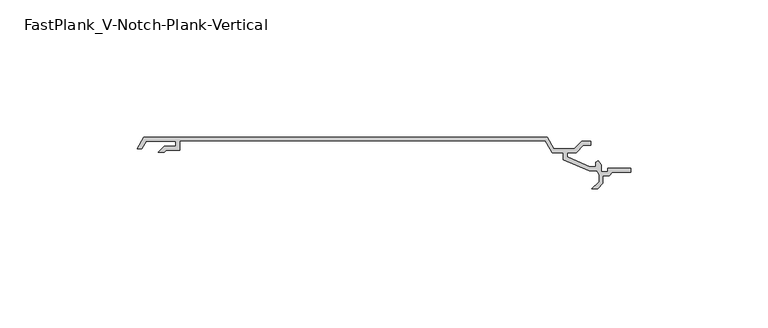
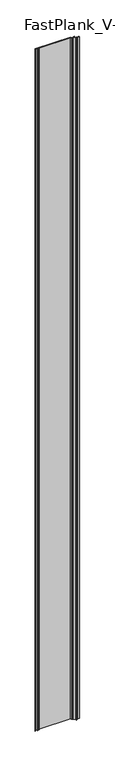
"""IFC4 building model written with IfcOpenShell, lengths in millimetres: plate geometry, FastPlank_V-Notch-Plank-Vertical : P44V-V-Notch-4″-Plank-Vertical."""

from ifc_helpers import new_model, si_unit, origin, origin_with_axes, place, context, project, spatial, polyline, outline, extrude, source, transform, mapped, element, save


def fastplank_v_notch_plank_vertical_97f11817(model_context):
    return source(origin(), model_context, "Body", "SweptSolid", [
        extrude(outline(polyline([(-60.7136961, 14.0246043), (-65.6122888, 14.0246043), (-66.3205995, 13.3162936), (-68.4391501, 13.3162936), (-66.2308424, 15.5246013), (-62.2172419, 15.5246013), (-62.2172419, 17.3745976), (-72.9382205, 17.3745976), (-74.4680062, 14.7246029), (-76.2, 14.7246029), (-73.8042977, 18.8745946), (73.3040846, 18.8745946), (75.7000834, 14.7246029), (83.2147973, 14.7246029), (85.864792, 17.3745976), (89.1726601, 17.3745976), (89.1726601, 15.8746006), (86.4861111, 15.8746006), (83.8361164, 13.2246059), (80.6486482, 13.2246059), (80.6486482, 11.708109), (88.8522203, 8.0338609), (91.0558186, 8.0338609), (91.0558186, 9.7191932), (91.8227937, 10.3184198), (92.9909783, 8.8232117), (92.9909783, 6.2821578), (95.4578751, 6.2821578), (95.4578751, 7.5321553), (103.7909904, 7.5321553), (103.7909904, 6.0321583), (96.9427309, 6.0321583), (95.8437723, 4.7821608), (93.5150861, 4.7821608), (93.5150861, 2.1334241), (91.6394467, 0.0), (89.5213563, 0.0), (92.2150887, 2.6937325), (92.2150887, 5.0811989), (91.3763922, 6.5338639), (88.5609184, 6.5338639), (79.1739676, 10.7243127), (79.1739676, 13.2246059), (75.0649994, 13.2246059), (72.5535307, 17.5745972), (-60.7136961, 17.5745972), (-60.7136961, 14.0246043)])), origin_with_axes(), (0.0, 0.0, 1.0), 3024.7636711),
    ])


if __name__ == "__main__":
    model = new_model("IFC4")
    model_context = context("Model", 3, world=origin())
    ifc_project = project(units=[si_unit("LENGTHUNIT", "METRE", prefix="MILLI")], contexts=[model_context])
    site = spatial("IfcSite", under=ifc_project)
    building = spatial("IfcBuilding", under=site)
    placement = place(None, origin())
    fastplank_v_notch_plank_vertical_shape = fastplank_v_notch_plank_vertical_97f11817(model_context)
    element("IfcPlate", 1, ObjectType="FastPlank_V-Notch-Plank-Vertical : P44V-V-Notch-4″-Plank-Vertical", at=placement, inside=building, context=model_context, shape_type="MappedRepresentation", body=[
        mapped(fastplank_v_notch_plank_vertical_shape, transform((0.0, 0.0, 0.0), x_axis=(1.0, 0.0, 0.0), y_axis=(0.0, 1.0, 0.0), z_axis=(0.0, 0.0, 1.0))),
    ])
    save(model, "model.ifc")
